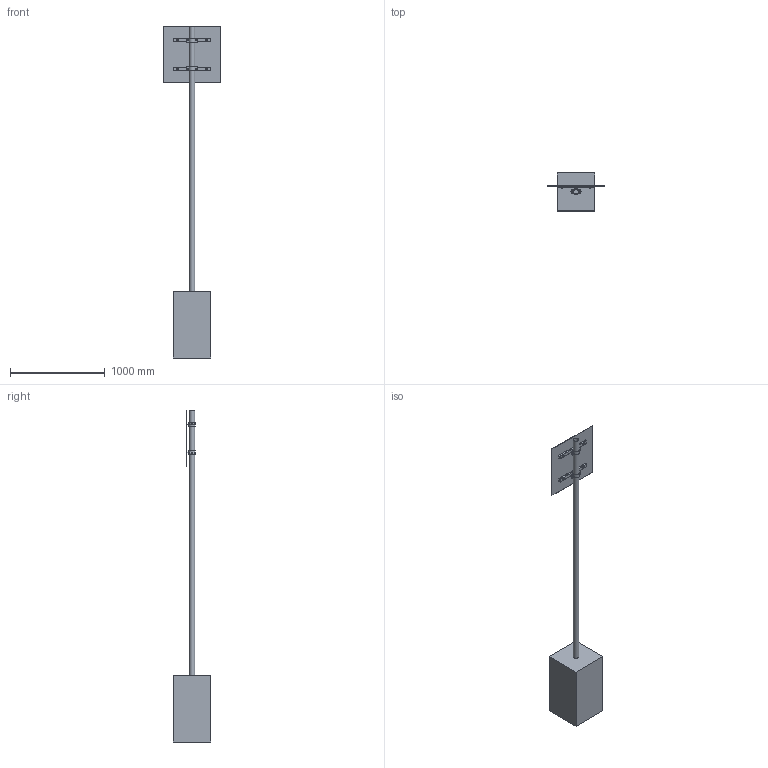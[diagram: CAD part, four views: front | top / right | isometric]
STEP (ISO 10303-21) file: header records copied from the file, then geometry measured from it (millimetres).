
FILE_DESCRIPTION(('FreeCAD Model'),'2;1');
FILE_NAME('Open CASCADE Shape Model','2026-10-04T03:19:44',('FreeCAD'),( 'FreeCAD'),'Open CASCADE STEP processor 7.8','FreeCAD','Unknown');
FILE_SCHEMA(('AUTOMOTIVE_DESIGN { 1 0 10303 214 1 1 1 1 }'));
Length unit declared in the file: millimetre
Products named in the file (1): Open CASCADE STEP translator 7.8 3
Bounding box: 600 x 400 x 3500 mm (x, y, z)
Volume: 113216142.2 mm3; surface area: 3715735.2 mm2
Topology: 15 solids, 15 shells, 130 faces, 291 edges, 194 vertices
Faces by surface type: plane 109, cylinder 21
Full cylindrical faces by diameter (mm): 8 x8, 9 x4, 53.9 x1, 60.3 x2, 61 x2
Entity records: 3629 total; most frequent: CARTESIAN_POINT 618, DIRECTION 597, ORIENTED_EDGE 582, EDGE_CURVE 291, LINE 243, VECTOR 243, VERTEX_POINT 194, AXIS2_PLACEMENT_3D 177
